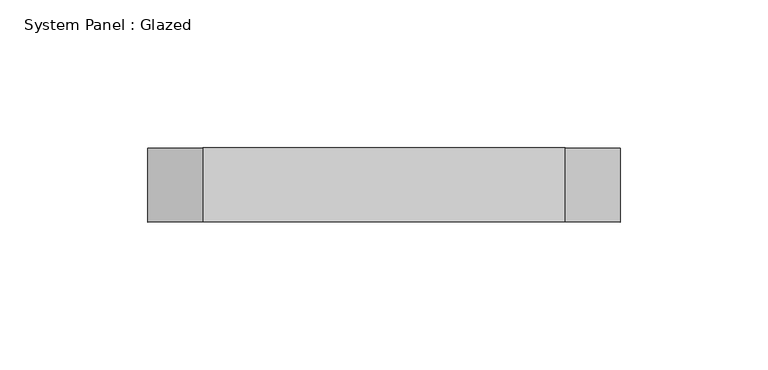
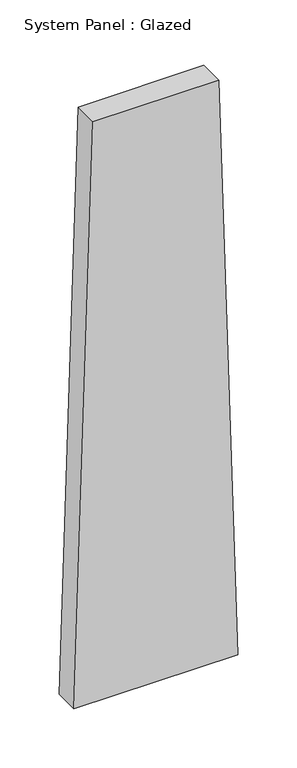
"""IFC4 building model written with IfcOpenShell, lengths in millimetres: plate geometry, System Panel : Glazed."""

import ifcopenshell
import ifcopenshell.guid

model = None  # the IFC model being written
_history = None  # IfcOwnerHistory: only IFC2X3 demands one
_inside = {}  # id of a spatial element -> (the spatial element, [elements in it])
_under = {}  # id of a project, library or spatial element -> (it, [spatial elements below it])
_declared = {}  # id of a project -> (the project, [libraries it declares])
_typed = {}  # id of a type object -> (the type object, [elements of that type])
_made_of = {}  # id of a material, layer set ... -> (it, [elements and type objects made of it])


def new_model(schema):
    """Start an empty IFC model of exactly this schema.

    Asked for "IFC4X3", IfcOpenShell would pick the latest addendum, in which some entities
    have other attributes; the version numbers below select the first issue.
    IFC2X3 requires an IfcOwnerHistory on every rooted entity: one is made here for all.
    """
    global model, _history
    if schema == "IFC4X3":
        model = ifcopenshell.file(schema_version=(4, 3, 0, 0))
    else:
        model = ifcopenshell.file(schema=schema)
    _inside.clear()
    _under.clear()
    _declared.clear()
    _typed.clear()
    _made_of.clear()
    _history = None
    if model.schema == "IFC2X3":
        org = make("IfcOrganization", Name="unknown")
        user = make(
            "IfcPersonAndOrganization",
            ThePerson=make("IfcPerson", FamilyName="unknown"),
            TheOrganization=org,
        )
        app = make(
            "IfcApplication",
            ApplicationDeveloper=org,
            Version="unknown",
            ApplicationFullName="unknown",
            ApplicationIdentifier="unknown",
        )
        _history = make(
            "IfcOwnerHistory",
            OwningUser=user,
            OwningApplication=app,
            ChangeAction="ADDED",
            CreationDate=0,
        )
    return model


def make(cls, **values):
    """One entity of the class cls with the attributes given. An attribute that is None is left unset."""
    return model.create_entity(
        cls, **{name: value for name, value in values.items() if value is not None}
    )


def rooted(cls, **values):
    """An entity with a GlobalId (a new one), such as an element, a storey or a relation."""
    return make(cls, GlobalId=ifcopenshell.guid.new(), OwnerHistory=_history, **values)


def si_unit(unit_type, name, prefix=None):
    """IfcSIUnit, for example si_unit("LENGTHUNIT", "METRE", prefix="MILLI")."""
    return make("IfcSIUnit", UnitType=unit_type, Prefix=prefix, Name=name)


def assignment(units):
    """IfcUnitAssignment: the units of a project."""
    return None if units is None else make("IfcUnitAssignment", Units=units)


def point(xyz):
    """IfcCartesianPoint."""
    return None if xyz is None else make("IfcCartesianPoint", Coordinates=xyz)


def direction(xyz):
    """IfcDirection."""
    return None if xyz is None else make("IfcDirection", DirectionRatios=xyz)


def frame(location, z_axis=None, x_axis=None):
    """IfcAxis2Placement3D, a coordinate frame: its origin and axes. An axis left out is left unset."""
    return make(
        "IfcAxis2Placement3D",
        Location=point(location),
        Axis=direction(z_axis),
        RefDirection=direction(x_axis),
    )


def origin():
    """The frame at (0, 0, 0) with its axes left unset."""
    return frame((0.0, 0.0, 0.0))


def place(relative_to, where):
    """IfcLocalPlacement: puts the frame where relative to a parent placement (None: the world)."""
    return make(
        "IfcLocalPlacement", PlacementRelTo=relative_to, RelativePlacement=where
    )


def context(
    kind, dimensions, precision=None, world=None, true_north=None, identifier=None
):
    """IfcGeometricRepresentationContext, for example the 3D "Model" context."""
    return make(
        "IfcGeometricRepresentationContext",
        ContextIdentifier=identifier,
        ContextType=kind,
        CoordinateSpaceDimension=dimensions,
        Precision=precision,
        WorldCoordinateSystem=world,
        TrueNorth=true_north,
    )


def project(units=None, contexts=None):
    """IfcProject with its units and contexts."""
    return rooted(
        "IfcProject",
        Name="project",
        RepresentationContexts=contexts,
        UnitsInContext=assignment(units),
    )


def spatial(cls, under=None, at=None, **own):
    """A site, building, storey or space (cls), placed at a placement, below another one or the project."""
    s = rooted(cls, ObjectPlacement=at, **own)
    if under is not None:
        _under.setdefault(under.id(), (under, []))[1].append(s)
    return s


def polyline(points):
    """IfcPolyline through the points."""
    return make("IfcPolyline", Points=[point(p) for p in points])


def outline(outer, holes=None, kind="AREA"):
    """IfcArbitraryClosedProfileDef: a profile drawn as a closed curve; with holes, ...WithVoids."""
    if holes is None:
        return make("IfcArbitraryClosedProfileDef", ProfileType=kind, OuterCurve=outer)
    return make(
        "IfcArbitraryProfileDefWithVoids",
        ProfileType=kind,
        OuterCurve=outer,
        InnerCurves=holes,
    )


def extrude(swept, where, along, depth):
    """IfcExtrudedAreaSolid: the profile swept, set in the frame where, extruded along a direction by depth."""
    return make(
        "IfcExtrudedAreaSolid",
        SweptArea=swept,
        Position=where,
        ExtrudedDirection=direction(along),
        Depth=depth,
    )


def shape(context_of_items, identifier, shape_type, items):
    """IfcShapeRepresentation: the items that make up one representation, for example the "Body"."""
    return make(
        "IfcShapeRepresentation",
        ContextOfItems=context_of_items,
        RepresentationIdentifier=identifier,
        RepresentationType=shape_type,
        Items=items,
    )


def source(mapping_origin, context_of_items, identifier, shape_type, items):
    """IfcRepresentationMap: a shape defined once, which mapped items show again and again."""
    return make(
        "IfcRepresentationMap",
        MappingOrigin=mapping_origin,
        MappedRepresentation=shape(context_of_items, identifier, shape_type, items),
    )


def transform(
    local_origin,
    x_axis=None,
    y_axis=None,
    z_axis=None,
    scale=None,
    scale2=None,
    scale3=None,
    uniform=True,
):
    """IfcCartesianTransformationOperator3D, or its non-uniform kind. x_axis, y_axis, z_axis: its Axis1, 2, 3."""
    if uniform:
        return make(
            "IfcCartesianTransformationOperator3D",
            Axis1=direction(x_axis),
            Axis2=direction(y_axis),
            LocalOrigin=point(local_origin),
            Scale=scale,
            Axis3=direction(z_axis),
        )
    return make(
        "IfcCartesianTransformationOperator3DnonUniform",
        Axis1=direction(x_axis),
        Axis2=direction(y_axis),
        LocalOrigin=point(local_origin),
        Scale=scale,
        Axis3=direction(z_axis),
        Scale2=scale2,
        Scale3=scale3,
    )


def mapped(mapping_source, mapping_target):
    """IfcMappedItem: shows the shape of a source again, moved by a transform."""
    return make(
        "IfcMappedItem", MappingSource=mapping_source, MappingTarget=mapping_target
    )


def made_of(thing, what):
    """Note that an element or type object is made of a material, layer set ...; save() writes the relation."""
    if what is not None:
        _made_of.setdefault(what.id(), (what, []))[1].append(thing)
    return thing


def element(
    cls,
    number,
    at=None,
    inside=None,
    cuts=None,
    type_object=None,
    material=None,
    context=None,
    identifier="Body",
    shape_type=None,
    held_by="IfcProductDefinitionShape",
    body=None,
    shapes=None,
    **own,
):
    """One element of the class cls, such as IfcWall. Its Tag is "e" and its number.

    at: its placement. inside: the storey or other place that contains it. cuts: it is an
    opening in that element (IfcRelVoidsElement). A single representation is given by context,
    identifier, shape_type and body (its items); several are given by shapes. held_by: the class
    of the entity that holds the representations. save() writes the other relations.
    """
    e = rooted(cls, Tag="e%d" % number, ObjectPlacement=at, **own)
    if body is not None:
        shapes = [shape(context, identifier, shape_type, body)]
    if shapes is not None:
        e.Representation = make(held_by, Representations=shapes)
    if inside is not None:
        _inside.setdefault(inside.id(), (inside, []))[1].append(e)
    if cuts is not None:
        rooted(
            "IfcRelVoidsElement", RelatingBuildingElement=cuts, RelatedOpeningElement=e
        )
    if type_object is not None:
        _typed.setdefault(type_object.id(), (type_object, []))[1].append(e)
    return made_of(e, material)


def aggregate(whole, parts):
    """IfcRelAggregates: a whole, such as a stair, and the parts it consists of."""
    return rooted("IfcRelAggregates", RelatingObject=whole, RelatedObjects=parts)


def save(model, path):
    """Write the relations noted so far, then the file.

    IfcRelAggregates (storeys below a building ...), IfcRelContainedInSpatialStructure (elements
    in a storey), IfcRelDefinesByType, IfcRelAssociatesMaterial and IfcRelDeclares: one each for
    every whole, place, type object, material and project.
    """
    for whole, parts in _under.values():
        aggregate(whole, parts)
    for where, things in _inside.values():
        rooted(
            "IfcRelContainedInSpatialStructure",
            RelatedElements=things,
            RelatingStructure=where,
        )
    for kind, things in _typed.values():
        rooted("IfcRelDefinesByType", RelatedObjects=things, RelatingType=kind)
    for what, things in _made_of.values():
        rooted("IfcRelAssociatesMaterial", RelatedObjects=things, RelatingMaterial=what)
    for by, libraries in _declared.values():
        rooted("IfcRelDeclares", RelatingContext=by, RelatedDefinitions=libraries)
    model.write(path)


def system_panel_glazed_171409ba(model_context):
    return source(origin(), model_context, "Body", "SweptSolid", [
        extrude(outline(polyline([(0.0, -79.8806656), (0.0, 79.8806656), (599.7140779, 61.3597378), (599.7140779, -61.3597378), (0.0, -79.8806656)])), frame((0.0, 24.5, 0.0), z_axis=(0.0, 1.0, 0.0), x_axis=(0.0, 0.0, 1.0)), (0.0, 0.0, 1.0), 25.0),
    ])


if __name__ == "__main__":
    model = new_model("IFC4")
    model_context = context("Model", 3, world=origin())
    ifc_project = project(units=[si_unit("LENGTHUNIT", "METRE", prefix="MILLI")], contexts=[model_context])
    site = spatial("IfcSite", under=ifc_project)
    building = spatial("IfcBuilding", under=site)
    placement = place(None, origin())
    system_panel_glazed_shape = system_panel_glazed_171409ba(model_context)
    element("IfcPlate", 1, ObjectType="System Panel : Glazed", at=placement, inside=building, context=model_context, shape_type="MappedRepresentation", body=[
        mapped(system_panel_glazed_shape, transform((0.0, 0.0, 0.0), x_axis=(1.0, 0.0, 0.0), y_axis=(0.0, 1.0, 0.0), z_axis=(0.0, 0.0, 1.0))),
    ])
    save(model, "model.ifc")
